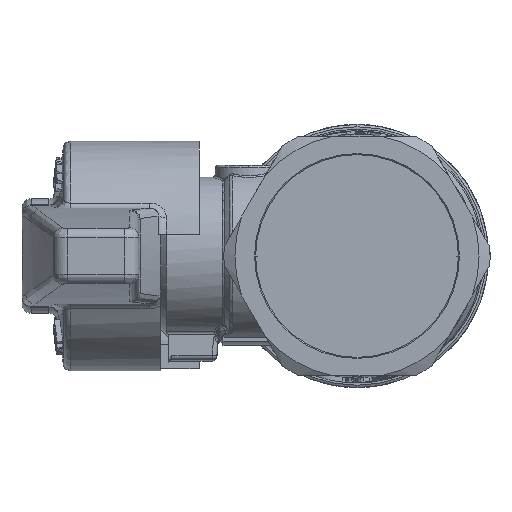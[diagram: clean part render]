
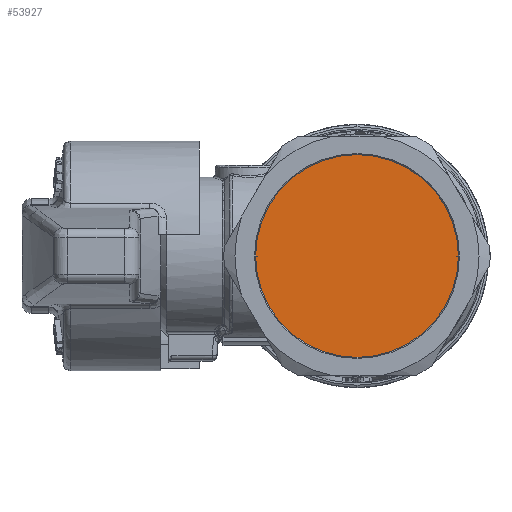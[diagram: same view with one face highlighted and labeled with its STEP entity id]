
A CAD part, left-side view. The second image highlights one B-rep face of the part: STEP entity #53927.
In plain terms, the highlighted planar face has unit normal (-1, 0, 0).
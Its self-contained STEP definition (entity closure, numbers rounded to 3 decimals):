
#53870=CARTESIAN_POINT('',(-29.393,0.,0.));
#53871=DIRECTION('',(-1.,0.,0.));
#53872=DIRECTION('',(0.,-1.,0.));
#53873=AXIS2_PLACEMENT_3D('',#53870,#53871,#53872);
#53879=CARTESIAN_POINT('',(-29.393,0.,0.));
#53880=DIRECTION('',(1.,0.,0.));
#53881=DIRECTION('',(0.,-1.,0.));
#53882=AXIS2_PLACEMENT_3D('',#53879,#53880,#53881);
#53904=CARTESIAN_POINT('',(-29.393,-10.593,0.));
#53906=VERTEX_POINT('',#53904);
#53908=CARTESIAN_POINT('',(-29.393,10.593,0.));
#53910=VERTEX_POINT('',#53908);
#53916=CARTESIAN_POINT('',(-29.393,0.,0.));
#53917=DIRECTION('',(1.,0.,0.));
#53918=DIRECTION('',(0.,-1.,0.));
#53919=AXIS2_PLACEMENT_3D('',#53916,#53917,#53918);
#53920=PLANE('',#53919);
#53922=ORIENTED_EDGE('',*,*,#53921,.F.);
#53924=ORIENTED_EDGE('',*,*,#53923,.T.);
#53925=EDGE_LOOP('',(#53922,#53924));
#53926=FACE_OUTER_BOUND('',#53925,.F.);
#53927=ADVANCED_FACE('',(#53926),#53920,.F.);
#53874=CIRCLE('',#53873,10.593);
#53883=CIRCLE('',#53882,10.593);
#53921=EDGE_CURVE('',#53906,#53910,#53874,.T.);
#53923=EDGE_CURVE('',#53906,#53910,#53883,.T.);
